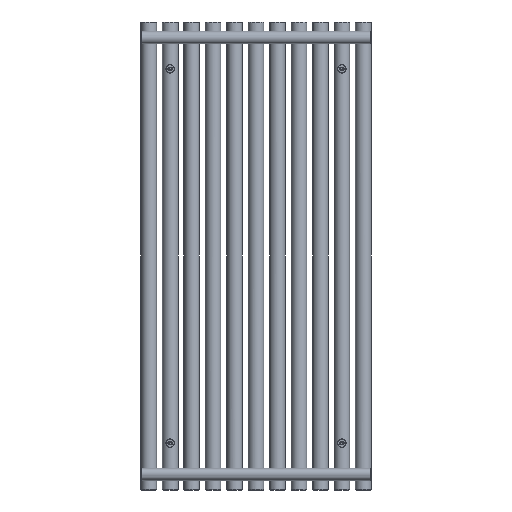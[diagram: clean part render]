
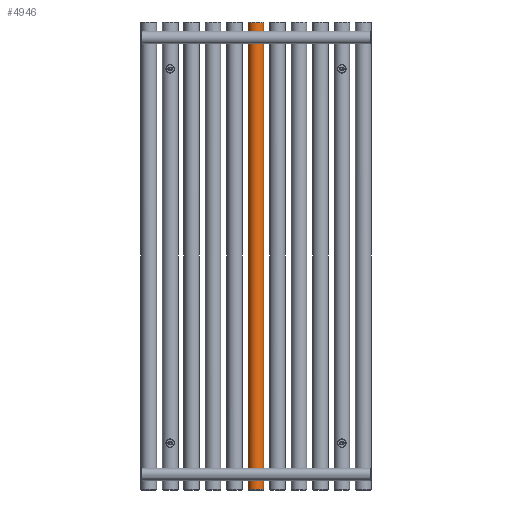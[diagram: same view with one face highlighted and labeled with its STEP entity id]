
A CAD part, front view. The second image highlights one B-rep face of the part: STEP entity #4946.
In plain terms, the highlighted cylindrical face has radius 20 mm (diameter 40 mm), a full revolution.
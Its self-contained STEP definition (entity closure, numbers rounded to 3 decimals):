
#299=FACE_BOUND('',#1039,.T.);
#300=FACE_BOUND('',#1040,.T.);
#301=FACE_BOUND('',#1041,.T.);
#373=LINE('',#9360,#498);
#498=VECTOR('',#6166,20.);
#623=CYLINDRICAL_SURFACE('',#5321,20.);
#700=FACE_OUTER_BOUND('',#1038,.T.);
#1038=EDGE_LOOP('',(#3430,#3431,#3432,#3433,#3434));
#1039=EDGE_LOOP('',(#3435));
#1040=EDGE_LOOP('',(#3436));
#1041=EDGE_LOOP('',(#3437));
#1432=B_SPLINE_CURVE_WITH_KNOTS('',3,(#9335,#9336,#9337,#9338,#9339,#9340,
#9341,#9342,#9343,#9344,#9345,#9346,#9347,#9348,#9349,#9350,#9351,#9352,
#9353,#9354),.UNSPECIFIED.,.T.,.F.,(4,1,1,1,1,1,1,1,1,1,1,1,1,1,1,1,1,4),
(-5.132,-4.765,-4.399,-3.91,
-3.788,-3.666,-3.421,-3.177,
-2.933,-2.444,-2.199,-1.955,
-1.711,-1.466,-1.1,-0.733,
-0.367,0.),.UNSPECIFIED.);
#1433=B_SPLINE_CURVE_WITH_KNOTS('',3,(#9364,#9365,#9366,#9367,#9368,#9369,
#9370,#9371,#9372,#9373,#9374,#9375,#9376,#9377,#9378,#9379,#9380,#9381,
#9382,#9383),.UNSPECIFIED.,.T.,.F.,(4,1,1,1,1,1,1,1,1,1,1,1,1,1,1,1,1,4),
(-5.132,-4.765,-4.399,-4.154,
-3.91,-3.666,-3.421,-3.177,-2.933,
-2.444,-2.199,-1.955,-1.711,-1.466,
-1.1,-0.733,-0.367,0.),
 .UNSPECIFIED.);
#1434=B_SPLINE_CURVE_WITH_KNOTS('',3,(#9385,#9386,#9387,#9388,#9389,#9390,
#9391,#9392,#9393,#9394,#9395,#9396,#9397,#9398,#9399,#9400,#9401,#9402,
#9403,#9404),.UNSPECIFIED.,.T.,.F.,(4,1,1,1,1,1,1,1,1,1,1,1,1,1,1,1,1,4),
(-6.15,-5.711,-5.272,-4.686,
-4.393,-4.247,-4.1,-3.807,
-3.514,-3.222,-2.929,-2.636,
-2.05,-1.757,-1.318,-0.879,
-0.439,0.),.UNSPECIFIED.);
#1541=CIRCLE('',#5322,20.);
#1542=CIRCLE('',#5323,20.);
#1543=CIRCLE('',#5324,20.);
#2074=VERTEX_POINT('',#9333);
#2075=VERTEX_POINT('',#9356);
#2076=VERTEX_POINT('',#9357);
#2077=VERTEX_POINT('',#9359);
#2078=VERTEX_POINT('',#9363);
#2079=VERTEX_POINT('',#9384);
#2630=EDGE_CURVE('',#2074,#2074,#1432,.T.);
#2631=EDGE_CURVE('',#2075,#2076,#1541,.T.);
#2632=EDGE_CURVE('',#2075,#2077,#373,.T.);
#2633=EDGE_CURVE('',#2077,#2077,#1542,.T.);
#2634=EDGE_CURVE('',#2076,#2075,#1543,.T.);
#2635=EDGE_CURVE('',#2078,#2078,#1433,.T.);
#2636=EDGE_CURVE('',#2079,#2079,#1434,.T.);
#3430=ORIENTED_EDGE('',*,*,#2631,.F.);
#3431=ORIENTED_EDGE('',*,*,#2632,.T.);
#3432=ORIENTED_EDGE('',*,*,#2633,.F.);
#3433=ORIENTED_EDGE('',*,*,#2632,.F.);
#3434=ORIENTED_EDGE('',*,*,#2634,.F.);
#3435=ORIENTED_EDGE('',*,*,#2635,.F.);
#3436=ORIENTED_EDGE('',*,*,#2636,.F.);
#3437=ORIENTED_EDGE('',*,*,#2630,.F.);
#4946=ADVANCED_FACE('',(#700,#299,#300,#301),#623,.T.);
#5321=AXIS2_PLACEMENT_3D('',#9355,#6162,#6163);
#5322=AXIS2_PLACEMENT_3D('',#9358,#6164,#6165);
#5323=AXIS2_PLACEMENT_3D('',#9361,#6167,#6168);
#5324=AXIS2_PLACEMENT_3D('',#9362,#6169,#6170);
#6162=DIRECTION('center_axis',(0.,0.,1.));
#6163=DIRECTION('ref_axis',(-1.,0.,0.));
#6164=DIRECTION('center_axis',(0.,0.,1.));
#6165=DIRECTION('ref_axis',(-1.,0.,0.));
#6166=DIRECTION('',(0.,0.,-1.));
#6167=DIRECTION('center_axis',(0.,0.,-1.));
#6168=DIRECTION('ref_axis',(-1.,0.,0.));
#6169=DIRECTION('center_axis',(0.,0.,1.));
#6170=DIRECTION('ref_axis',(-1.,0.,0.));
#9333=CARTESIAN_POINT('',(-275.,-20.,50.1));
#9335=CARTESIAN_POINT('Ctrl Pts',(-275.,-20.,50.1));
#9336=CARTESIAN_POINT('Ctrl Pts',(-276.611,-20.,50.1));
#9337=CARTESIAN_POINT('Ctrl Pts',(-279.831,-19.609,49.581));
#9338=CARTESIAN_POINT('Ctrl Pts',(-284.316,-17.862,46.748));
#9339=CARTESIAN_POINT('Ctrl Pts',(-286.001,-16.692,42.52));
#9340=CARTESIAN_POINT('Ctrl Pts',(-285.992,-16.71,39.163));
#9341=CARTESIAN_POINT('Ctrl Pts',(-285.668,-16.918,36.969));
#9342=CARTESIAN_POINT('Ctrl Pts',(-284.648,-17.555,34.43));
#9343=CARTESIAN_POINT('Ctrl Pts',(-282.535,-18.589,32.082));
#9344=CARTESIAN_POINT('Ctrl Pts',(-278.836,-19.82,30.087));
#9345=CARTESIAN_POINT('Ctrl Pts',(-274.419,-20.202,29.641));
#9346=CARTESIAN_POINT('Ctrl Pts',(-270.239,-19.503,30.58));
#9347=CARTESIAN_POINT('Ctrl Pts',(-267.466,-18.591,32.084));
#9348=CARTESIAN_POINT('Ctrl Pts',(-265.351,-17.553,34.428));
#9349=CARTESIAN_POINT('Ctrl Pts',(-263.927,-16.66,37.981));
#9350=CARTESIAN_POINT('Ctrl Pts',(-263.921,-16.659,42.598));
#9351=CARTESIAN_POINT('Ctrl Pts',(-266.137,-18.052,47.027));
#9352=CARTESIAN_POINT('Ctrl Pts',(-270.165,-19.6,49.585));
#9353=CARTESIAN_POINT('Ctrl Pts',(-273.389,-20.,50.1));
#9354=CARTESIAN_POINT('Ctrl Pts',(-275.,-20.,50.1));
#9355=CARTESIAN_POINT('Origin',(-275.,0.,0.));
#9356=CARTESIAN_POINT('',(-255.,0.,1198.));
#9357=CARTESIAN_POINT('',(-295.,0.,1198.));
#9358=CARTESIAN_POINT('Origin',(-275.,0.,1198.));
#9359=CARTESIAN_POINT('',(-255.,0.,2.));
#9360=CARTESIAN_POINT('',(-255.,0.,0.));
#9361=CARTESIAN_POINT('Origin',(-275.,0.,2.));
#9362=CARTESIAN_POINT('Origin',(-275.,0.,1198.));
#9363=CARTESIAN_POINT('',(-275.,-20.,1170.1));
#9364=CARTESIAN_POINT('Ctrl Pts',(-275.,-20.,1170.1));
#9365=CARTESIAN_POINT('Ctrl Pts',(-276.611,-20.,1170.1));
#9366=CARTESIAN_POINT('Ctrl Pts',(-279.838,-19.598,1169.588));
#9367=CARTESIAN_POINT('Ctrl Pts',(-283.412,-18.225,1167.308));
#9368=CARTESIAN_POINT('Ctrl Pts',(-285.38,-17.114,1164.116));
#9369=CARTESIAN_POINT('Ctrl Pts',(-286.116,-16.626,1160.853));
#9370=CARTESIAN_POINT('Ctrl Pts',(-285.87,-16.793,1157.475));
#9371=CARTESIAN_POINT('Ctrl Pts',(-284.65,-17.555,1154.43));
#9372=CARTESIAN_POINT('Ctrl Pts',(-282.535,-18.589,1152.082));
#9373=CARTESIAN_POINT('Ctrl Pts',(-278.836,-19.821,1150.088));
#9374=CARTESIAN_POINT('Ctrl Pts',(-274.419,-20.203,1149.641));
#9375=CARTESIAN_POINT('Ctrl Pts',(-270.24,-19.504,1150.58));
#9376=CARTESIAN_POINT('Ctrl Pts',(-267.467,-18.593,1152.084));
#9377=CARTESIAN_POINT('Ctrl Pts',(-265.351,-17.554,1154.428));
#9378=CARTESIAN_POINT('Ctrl Pts',(-263.928,-16.664,1157.98));
#9379=CARTESIAN_POINT('Ctrl Pts',(-263.923,-16.659,1162.598));
#9380=CARTESIAN_POINT('Ctrl Pts',(-266.135,-18.048,1167.029));
#9381=CARTESIAN_POINT('Ctrl Pts',(-270.165,-19.6,1169.585));
#9382=CARTESIAN_POINT('Ctrl Pts',(-273.389,-20.,1170.1));
#9383=CARTESIAN_POINT('Ctrl Pts',(-275.,-20.,1170.1));
#9384=CARTESIAN_POINT('',(-285.476,17.037,1000.));
#9385=CARTESIAN_POINT('Ctrl Pts',(-285.476,17.037,1000.));
#9386=CARTESIAN_POINT('Ctrl Pts',(-285.476,17.037,1001.678));
#9387=CARTESIAN_POINT('Ctrl Pts',(-284.71,17.527,1005.001));
#9388=CARTESIAN_POINT('Ctrl Pts',(-281.469,19.119,1009.277));
#9389=CARTESIAN_POINT('Ctrl Pts',(-276.909,20.126,1011.233));
#9390=CARTESIAN_POINT('Ctrl Pts',(-273.117,19.959,1010.921));
#9391=CARTESIAN_POINT('Ctrl Pts',(-271.106,19.637,1010.256));
#9392=CARTESIAN_POINT('Ctrl Pts',(-269.226,19.19,1009.292));
#9393=CARTESIAN_POINT('Ctrl Pts',(-267.207,18.468,1007.586));
#9394=CARTESIAN_POINT('Ctrl Pts',(-265.447,17.595,1004.897));
#9395=CARTESIAN_POINT('Ctrl Pts',(-264.484,17.016,1001.706));
#9396=CARTESIAN_POINT('Ctrl Pts',(-264.483,17.013,998.293));
#9397=CARTESIAN_POINT('Ctrl Pts',(-265.767,17.794,994.039));
#9398=CARTESIAN_POINT('Ctrl Pts',(-268.646,19.133,990.785));
#9399=CARTESIAN_POINT('Ctrl Pts',(-273.07,20.041,988.91));
#9400=CARTESIAN_POINT('Ctrl Pts',(-277.479,20.043,988.912));
#9401=CARTESIAN_POINT('Ctrl Pts',(-281.787,18.951,991.157));
#9402=CARTESIAN_POINT('Ctrl Pts',(-284.716,17.533,994.995));
#9403=CARTESIAN_POINT('Ctrl Pts',(-285.476,17.037,998.322));
#9404=CARTESIAN_POINT('Ctrl Pts',(-285.476,17.037,1000.));
